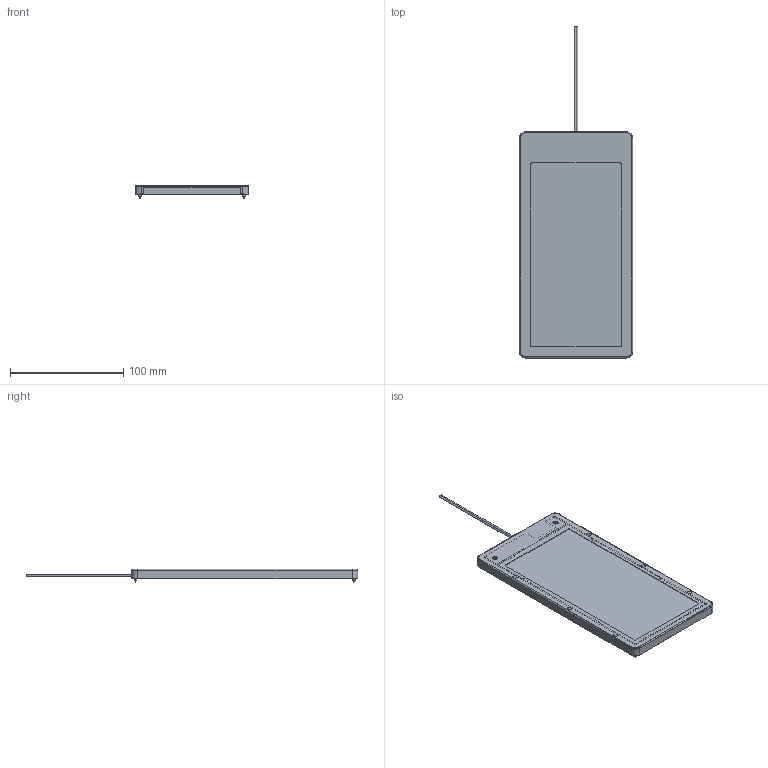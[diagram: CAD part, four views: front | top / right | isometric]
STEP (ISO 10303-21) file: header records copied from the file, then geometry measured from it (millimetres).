
FILE_DESCRIPTION((''),'2;1');
FILE_NAME('100X100_ASM','2024-04-10T',('Administrator'),(''),'PRO/ENGINEER BY PARAMETRIC TECHNOLOGY CORPORATION, 2009360','PRO/ENGINEER BY PARAMETRIC TECHNOLOGY CORPORATION, 2009360','');
FILE_SCHEMA(('CONFIG_CONTROL_DESIGN'));
Length unit declared in the file: millimetre
Products named in the file (14): PLASTIC_NOUMENON1; LINE-24AWG; PCB-IR; GEIBAN; PS1; FRONT_COVER-SPCC1; KAIGUANMAO; NEW; FANGUANGZHI; PMMA; M2-3; PFC; M17_3; 100X100_ASM
Assembly tree (17 placements, depth 2):
  100X100_ASM
    PLASTIC_NOUMENON1
    LINE-24AWG
    PCB-IR
    GEIBAN
    PS1
    FRONT_COVER-SPCC1
    KAIGUANMAO
    NEW
    FANGUANGZHI
    PMMA
    M2-3  x4
    PFC
    M17_3  x2
Bounding box: 100 x 293.45 x 11.83 mm (x, y, z)
Volume: 108378.5 mm3; surface area: 187385.7 mm2
Topology: 18 solids, 18 shells, 1824 faces, 4767 edges, 3110 vertices
Faces by surface type: plane 1310, cylinder 352, cone 78, bspline 34, torus 28, sphere 22
Entity records: 53405 total; most frequent: CARTESIAN_POINT 11044, ORIENTED_EDGE 8838, DIRECTION 8402, EDGE_CURVE 4419, VECTOR 3476, LINE 3476, VERTEX_POINT 2905, AXIS2_PLACEMENT_3D 2463
